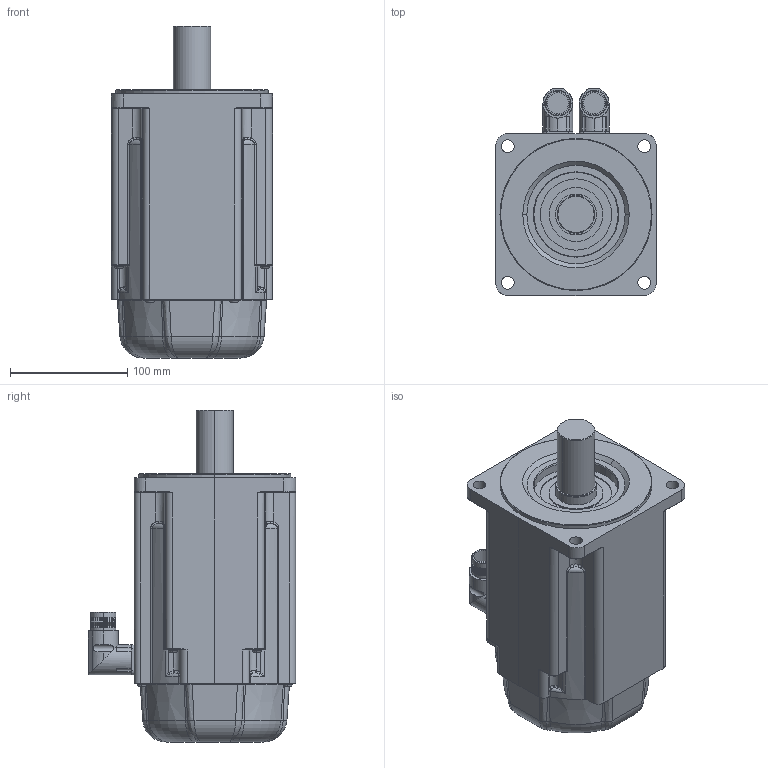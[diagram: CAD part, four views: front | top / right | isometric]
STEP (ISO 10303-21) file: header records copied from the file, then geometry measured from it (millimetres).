
FILE_DESCRIPTION (( 'STEP AP214' ), '1' );
FILE_NAME ('MR7763-Ux-Nxx-G01-A0D-MS-P0.stp', '2009-04-08T13:46:00', ( 'SysAdmin' ), ( 'SolidWorks' ), 'SwSTEP 2.0', 'SolidWorks 2009', '' );
FILE_SCHEMA (( 'AUTOMOTIVE_DESIGN' ));
Length unit declared in the file: millimetre
Products named in the file (1): MR7763-Ux-Nxx-G01-A0D-MS-P0
Bounding box: 138 x 177 x 283.7 mm (x, y, z)
Volume: 3585785.3 mm3; surface area: 165803.7 mm2
Topology: 1 solids, 1 shells, 628 faces, 1528 edges, 896 vertices
Faces by surface type: cylinder 206, cone 118, plane 116, bspline 116, torus 72
Entity records: 30119 total; most frequent: CARTESIAN_POINT 9511, ORIENTED_EDGE 2992, DIRECTION 2792, EDGE_CURVE 1496, AXIS2_PLACEMENT_3D 1199, VERTEX_POINT 896, CIRCLE 686, EDGE_LOOP 662
